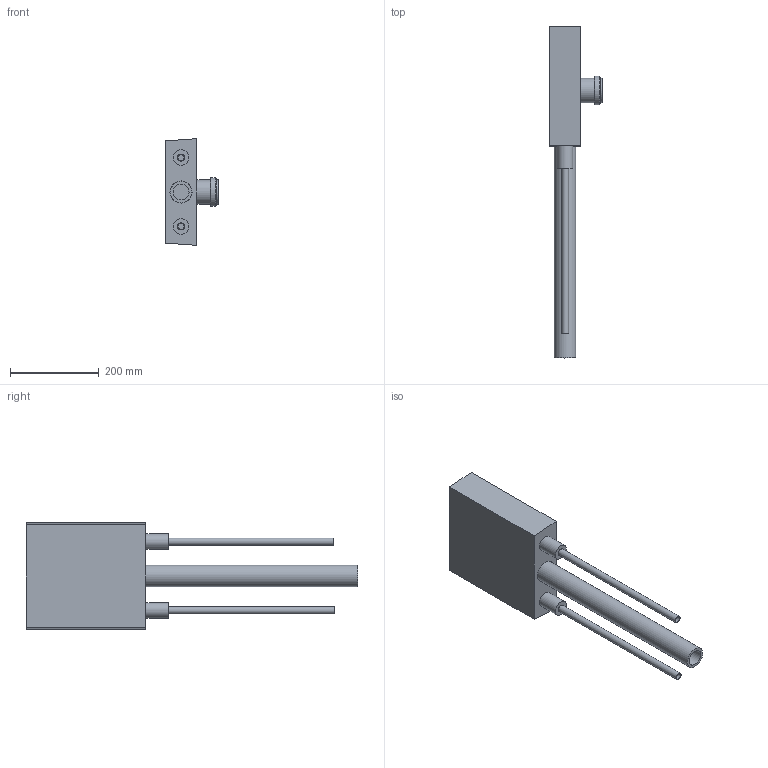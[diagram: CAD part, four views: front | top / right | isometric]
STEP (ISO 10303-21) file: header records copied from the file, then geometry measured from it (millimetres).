
FILE_DESCRIPTION(/* description */ (''),/* implementation_level */ '2;1');
FILE_NAME(/* name */ '\\LG50011\SANHA_Legnica\Engineering\Public\PROJEKTY\SANHA-BOX_Support_BiR\002-Rysunki_Boxów\25-ST-M\Zespół_325STM16.stp',/* time_stamp */ '2018-11-05T14:32:40+01:00',/* author */ ('gomulka'),/* organization */ (''),/* preprocessor_version */ 'ST-DEVELOPER v16.13',/* originating_system */ 'Autodesk Inventor 2018',/* authorisation */ '');
FILE_SCHEMA (('AUTOMOTIVE_DESIGN { 1 0 10303 214 3 1 1 }'));
Length unit declared in the file: millimetre
Products named in the file (5): Zespół_325STM16; 325STM16; Rura_50; Rura_16x2; Kolano_DN50-OD50
Assembly tree (5 placements, depth 2):
  Zespół_325STM16
    325STM16
    Rura_50
    Rura_16x2  x2
    Kolano_DN50-OD50
Bounding box: 119.29 x 747.23 x 240 mm (x, y, z)
Volume: 4926130 mm3; surface area: 475145.9 mm2
Topology: 5 solids, 5 shells, 124 faces, 280 edges, 186 vertices
Faces by surface type: plane 86, cylinder 20, bspline 16, cone 2
Full cylindrical faces by diameter (mm): 14 x2, 16 x4, 18.631 x2, 21 x2, 35 x2, 35.993 x1, 48.5 x1, 50 x1, 51 x1, 55 x3, 65 x1
Entity records: 3565 total; most frequent: CARTESIAN_POINT 774, ORIENTED_EDGE 508, DIRECTION 488, EDGE_CURVE 254, LINE 184, VECTOR 184, VERTEX_POINT 182, EDGE_LOOP 166
